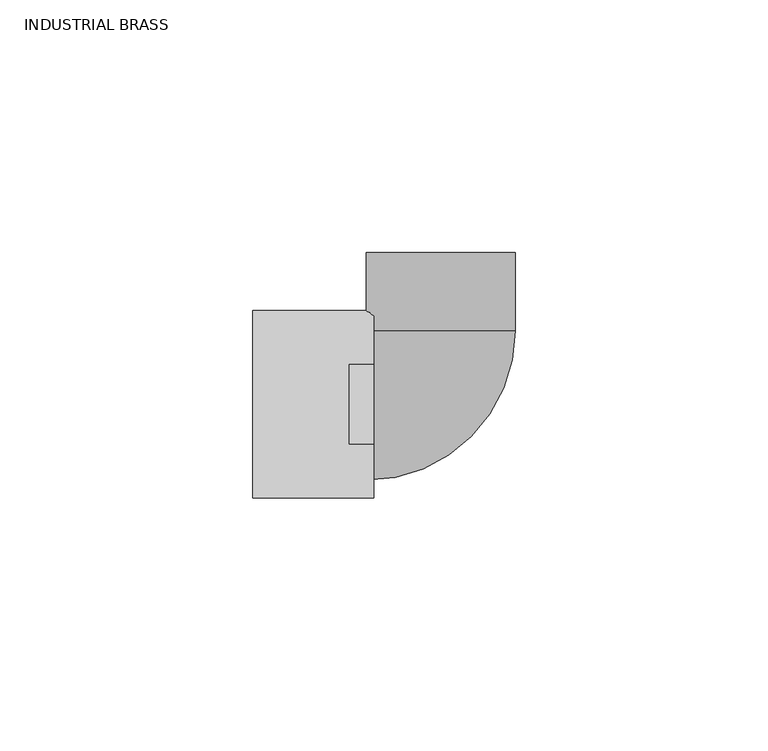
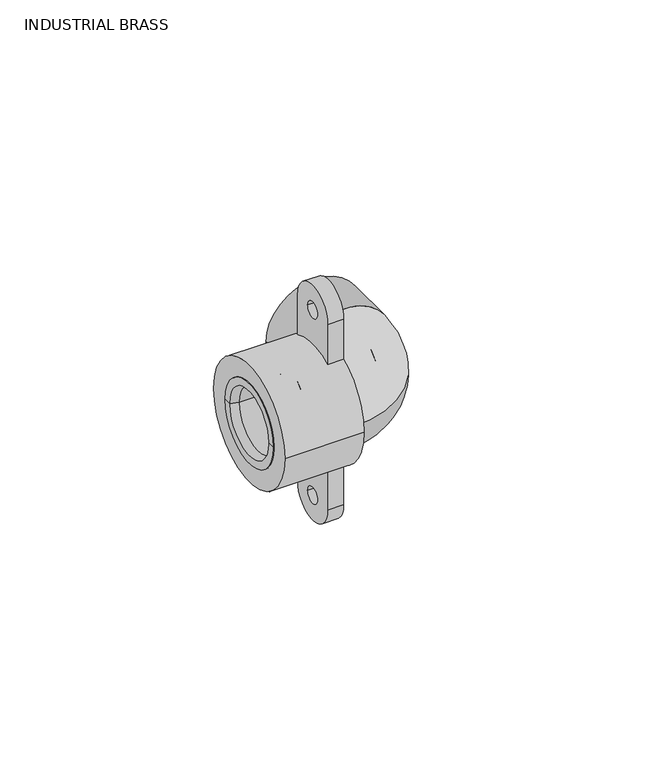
"""IFC4 building model written with IfcOpenShell, lengths in millimetres: valve geometry, Aquatherm - Elbow Transition - Wing Back : INDUSTRIAL BRASS."""

from ifc_helpers import new_model, si_unit, point, frame, origin, origin_2d, place, context, project, spatial, polyline, circle_curve, ellipse_curve, trimmed, segment, composite_curve, outline, extrude, source, transform, mapped, element, save
from ifc_brep_helpers import plane_surface, cylinder_surface, revolved_surface, advanced_brep


def industrial_brass_b8dd7a51(model_context):
    return source(origin(), model_context, "Body", "SolidModel", [
        advanced_brep(
        [(-24.384, -9.525, 0.0), (-24.384, 9.525, 0.0), (-34.5043125, 9.525, 0.0), (-34.5043125, -9.525, 0.0), (-24.384, -10.31875, 0.0), (-24.384, 10.31875, 0.0), (-21.209, -10.31875, 0.0), (-21.209, 10.31875, 0.0), (-21.209, -6.35, 0.0), (-21.209, 6.35, 0.0), (-18.034, -6.35, 0.0), (-18.034, 6.35, 0.0), (-18.034, -12.7, 0.0), (-18.034, 12.7, 0.0), (-37.084, -12.7, 0.0), (-37.084, 12.7, 0.0), (-37.084, -10.31875, 0.0), (-37.084, 10.31875, 0.0)],
        [
            (0, 1, circle_curve(frame((-24.384, 0.0, 0.0), z_axis=(1.0, 0.0, 0.0), x_axis=(0.0, 1.0, 0.0)), 9.525)),
            (1, 2),
            (2, 3, circle_curve(frame((-34.5043125, 0.0, 0.0), z_axis=(-1.0, 0.0, 0.0), x_axis=(0.0, 1.0, 0.0)), 9.525)),
            (3, 0),
            (1, 0, circle_curve(frame((-24.384, 0.0, 0.0), z_axis=(1.0, 0.0, 0.0), x_axis=(0.0, 1.0, 0.0)), 9.525)),
            (3, 2, circle_curve(frame((-34.5043125, 0.0, 0.0), z_axis=(-1.0, 0.0, 0.0), x_axis=(0.0, 1.0, 0.0)), 9.525)),
            (4, 5, circle_curve(frame((-24.384, 0.0, 0.0), z_axis=(1.0, 0.0, 0.0), x_axis=(0.0, 1.0, 0.0)), 10.31875)),
            (5, 1),
            (0, 4),
            (5, 4, circle_curve(frame((-24.384, 0.0, 0.0), z_axis=(1.0, 0.0, 0.0), x_axis=(0.0, 1.0, 0.0)), 10.31875)),
            (6, 7, circle_curve(frame((-21.209, 0.0, 0.0), z_axis=(1.0, 0.0, 0.0), x_axis=(0.0, 1.0, 0.0)), 10.31875)),
            (7, 5),
            (4, 6),
            (7, 6, circle_curve(frame((-21.209, 0.0, 0.0), z_axis=(1.0, 0.0, 0.0), x_axis=(0.0, 1.0, 0.0)), 10.31875)),
            (8, 9, circle_curve(frame((-21.209, 0.0, 0.0), z_axis=(1.0, 0.0, 0.0), x_axis=(0.0, 1.0, 0.0)), 6.35)),
            (9, 7),
            (6, 8),
            (9, 8, circle_curve(frame((-21.209, 0.0, 0.0), z_axis=(1.0, 0.0, 0.0), x_axis=(0.0, 1.0, 0.0)), 6.35)),
            (10, 11, circle_curve(frame((-18.034, 0.0, 0.0), z_axis=(1.0, 0.0, 0.0), x_axis=(0.0, 1.0, 0.0)), 6.35)),
            (11, 9),
            (8, 10),
            (11, 10, circle_curve(frame((-18.034, 0.0, 0.0), z_axis=(1.0, 0.0, 0.0), x_axis=(0.0, 1.0, 0.0)), 6.35)),
            (12, 13, circle_curve(frame((-18.034, 0.0, 0.0), z_axis=(1.0, 0.0, 0.0), x_axis=(0.0, 1.0, 0.0)), 12.7)),
            (13, 11),
            (10, 12),
            (13, 12, circle_curve(frame((-18.034, 0.0, 0.0), z_axis=(1.0, 0.0, 0.0), x_axis=(0.0, 1.0, 0.0)), 12.7)),
            (14, 15, circle_curve(frame((-37.084, 0.0, 0.0), z_axis=(1.0, 0.0, 0.0), x_axis=(0.0, 1.0, 0.0)), 12.7)),
            (15, 13),
            (12, 14),
            (15, 14, circle_curve(frame((-37.084, 0.0, 0.0), z_axis=(1.0, 0.0, 0.0), x_axis=(0.0, 1.0, 0.0)), 12.7)),
            (16, 17, circle_curve(frame((-37.084, 0.0, 0.0), z_axis=(1.0, 0.0, 0.0), x_axis=(0.0, 1.0, 0.0)), 10.31875)),
            (17, 15),
            (14, 16),
            (17, 16, circle_curve(frame((-37.084, 0.0, 0.0), z_axis=(1.0, 0.0, 0.0), x_axis=(0.0, 1.0, 0.0)), 10.31875)),
            (2, 17),
            (16, 3),
        ],
        [
            revolved_surface(polyline([(-34.5043125, 9.525, 0.0), (-24.384, 9.525, 0.0)]), (-38.9172251, 0.0, 0.0), (-1.0, 0.0, 0.0)),
            plane_surface(frame((-24.384, 0.0, 0.0), z_axis=(1.0, 0.0, 0.0), x_axis=(0.0, 1.0, 0.0))),
            revolved_surface(polyline([(-24.384, 10.31875, 0.0), (-21.209, 10.31875, 0.0)]), (-38.9172251, 0.0, 0.0), (-1.0, 0.0, 0.0)),
            plane_surface(frame((-21.209, 0.0, 0.0), z_axis=(-1.0, 0.0, 0.0), x_axis=(0.0, 1.0, 0.0))),
            revolved_surface(polyline([(-21.209, 6.35, 0.0), (-18.034, 6.35, 0.0)]), (-38.9172251, 0.0, 0.0), (-1.0, 0.0, 0.0)),
            plane_surface(frame((-18.034, 0.0, 0.0), z_axis=(1.0, 0.0, 0.0), x_axis=(0.0, 1.0, 0.0))),
            cylinder_surface(frame((-38.9172251, 0.0, 0.0), z_axis=(-1.0, 0.0, 0.0), x_axis=(0.0, 1.0, 0.0)), 12.7),
            plane_surface(frame((-37.084, 0.0, 0.0), z_axis=(-1.0, 0.0, 0.0), x_axis=(0.0, 1.0, 0.0))),
            revolved_surface(polyline([(-37.084, 10.31875, 0.0), (-34.5043125, 9.525, 0.0)]), (-38.9172251, 0.0, 0.0), (-1.0, 0.0, 0.0)),
        ],
        [
            (0, [[1, 2, 3, 4]]),
            (0, [[5, -4, 6, -2]]),
            (1, [[7, 8, -1, 9]]),
            (1, [[10, -9, -5, -8]]),
            (2, [[11, 12, -7, 13]]),
            (2, [[14, -13, -10, -12]]),
            (3, [[15, 16, -11, 17]]),
            (3, [[18, -17, -14, -16]]),
            (4, [[19, 20, -15, 21]]),
            (4, [[22, -21, -18, -20]]),
            (5, [[23, 24, -19, 25]]),
            (5, [[26, -25, -22, -24]]),
            (6, [[27, 28, -23, 29]]),
            (6, [[30, -29, -26, -28]]),
            (7, [[31, 32, -27, 33]]),
            (7, [[34, -33, -30, -32]]),
            (8, [[-3, 35, -31, 36]]),
            (8, [[-6, -36, -34, -35]]),
        ],
    ),
        advanced_brep(
        [(-13.208, 7.874, -16.787075), (-13.208, 18.542, 0.0), (-13.208, 7.874, 16.787075), (-13.208, 7.874, 29.464), (-13.208, -7.874, 29.464), (-13.208, -7.874, 16.787075), (-13.208, -18.542, 0.0), (-13.208, -7.874, -16.787075), (-13.208, -7.874, -29.464), (-13.208, 7.874, -29.464), (-13.208, -12.7, 0.0), (-13.208, 12.7, 0.0), (-13.208, -2.54, 29.464), (-13.208, 2.54, 29.464), (-13.208, -2.54, -29.464), (-13.208, 2.54, -29.464), (-37.084, -18.542, 0.0), (-37.084, 18.542, 0.0), (-37.084, -12.7, 0.0), (-37.084, 12.7, 0.0), (-18.034, 7.874, -16.787075), (-18.034, -7.874, -16.787075), (-18.034, -7.874, 16.787075), (-18.034, 7.874, 16.787075), (-18.034, -7.874, 29.464), (-18.034, 7.874, 29.464), (-18.034, -2.54, 29.464), (-18.034, 2.54, 29.464), (-18.034, 7.874, -29.464), (-18.034, -7.874, -29.464), (-18.034, -2.54, -29.464), (-18.034, 2.54, -29.464)],
        [
            (0, 1, circle_curve(frame((-13.208, 0.0, 0.0), z_axis=(1.0, 0.0, 0.0), x_axis=(0.0, 1.0, 0.0)), 18.542)),
            (1, 2, circle_curve(frame((-13.208, 0.0, 0.0), z_axis=(1.0, 0.0, 0.0), x_axis=(0.0, 1.0, 0.0)), 18.542)),
            (2, 3),
            (3, 4, circle_curve(frame((-13.208, 0.0, 29.464), z_axis=(1.0, 0.0, 0.0), x_axis=(0.0, 1.0, 0.0)), 7.874)),
            (4, 5),
            (5, 6, circle_curve(frame((-13.208, 0.0, 0.0), z_axis=(1.0, 0.0, 0.0), x_axis=(0.0, 1.0, 0.0)), 18.542)),
            (6, 7, circle_curve(frame((-13.208, 0.0, 0.0), z_axis=(1.0, 0.0, 0.0), x_axis=(0.0, 1.0, 0.0)), 18.542)),
            (7, 8),
            (8, 9, circle_curve(frame((-13.208, 0.0, -29.464), z_axis=(1.0, 0.0, 0.0), x_axis=(0.0, 1.0, 0.0)), 7.874)),
            (9, 0),
            (10, 11, circle_curve(frame((-13.208, 0.0, 0.0), z_axis=(-1.0, 0.0, 0.0), x_axis=(0.0, 1.0, 0.0)), 12.7)),
            (11, 10, circle_curve(frame((-13.208, 0.0, 0.0), z_axis=(-1.0, 0.0, 0.0), x_axis=(0.0, 1.0, 0.0)), 12.7)),
            (12, 13, circle_curve(frame((-13.208, 0.0, 29.464), z_axis=(-1.0, 0.0, 0.0), x_axis=(0.0, 1.0, 0.0)), 2.54)),
            (13, 12, circle_curve(frame((-13.208, 0.0, 29.464), z_axis=(-1.0, 0.0, 0.0), x_axis=(0.0, 1.0, 0.0)), 2.54)),
            (14, 15, circle_curve(frame((-13.208, 0.0, -29.464), z_axis=(-1.0, 0.0, 0.0), x_axis=(0.0, 1.0, 0.0)), 2.54)),
            (15, 14, circle_curve(frame((-13.208, 0.0, -29.464), z_axis=(-1.0, 0.0, 0.0), x_axis=(0.0, 1.0, 0.0)), 2.54)),
            (16, 17, circle_curve(frame((-37.084, 0.0, 0.0), z_axis=(-1.0, 0.0, 0.0), x_axis=(0.0, 1.0, 0.0)), 18.542)),
            (17, 16, circle_curve(frame((-37.084, 0.0, 0.0), z_axis=(-1.0, 0.0, 0.0), x_axis=(0.0, 1.0, 0.0)), 18.542)),
            (18, 19, circle_curve(frame((-37.084, 0.0, 0.0), z_axis=(1.0, 0.0, 0.0), x_axis=(0.0, 1.0, 0.0)), 12.7)),
            (19, 18, circle_curve(frame((-37.084, 0.0, 0.0), z_axis=(1.0, 0.0, 0.0), x_axis=(0.0, 1.0, 0.0)), 12.7)),
            (17, 1),
            (0, 20),
            (20, 21, circle_curve(frame((-18.034, 0.0, 0.0), z_axis=(-1.0, 0.0, 0.0), x_axis=(0.0, 1.0, 0.0)), 18.542)),
            (21, 7),
            (6, 16),
            (5, 22),
            (22, 23, circle_curve(frame((-18.034, 0.0, 0.0), z_axis=(-1.0, 0.0, 0.0), x_axis=(0.0, 1.0, 0.0)), 18.542)),
            (23, 2),
            (10, 18),
            (19, 11),
            (24, 25, circle_curve(frame((-18.034, 0.0, 29.464), z_axis=(-1.0, 0.0, 0.0), x_axis=(0.0, 1.0, 0.0)), 7.874)),
            (25, 23),
            (22, 24),
            (26, 27, circle_curve(frame((-18.034, 0.0, 29.464), z_axis=(1.0, 0.0, 0.0), x_axis=(0.0, 1.0, 0.0)), 2.54)),
            (27, 26, circle_curve(frame((-18.034, 0.0, 29.464), z_axis=(1.0, 0.0, 0.0), x_axis=(0.0, 1.0, 0.0)), 2.54)),
            (28, 29, circle_curve(frame((-18.034, 0.0, -29.464), z_axis=(-1.0, 0.0, 0.0), x_axis=(0.0, 1.0, 0.0)), 7.874)),
            (29, 21),
            (20, 28),
            (30, 31, circle_curve(frame((-18.034, 0.0, -29.464), z_axis=(1.0, 0.0, 0.0), x_axis=(0.0, 1.0, 0.0)), 2.54)),
            (31, 30, circle_curve(frame((-18.034, 0.0, -29.464), z_axis=(1.0, 0.0, 0.0), x_axis=(0.0, 1.0, 0.0)), 2.54)),
            (4, 24),
            (25, 3),
            (12, 26),
            (27, 13),
            (8, 29),
            (28, 9),
            (14, 30),
            (31, 15),
        ],
        [
            plane_surface(frame((-13.208, 18.542, 0.0), z_axis=(1.0, 0.0, 0.0), x_axis=(0.0, 0.0, 1.0))),
            plane_surface(frame((-37.084, 18.542, 0.0), z_axis=(-1.0, 0.0, 0.0), x_axis=(0.0, 0.0, -1.0))),
            cylinder_surface(frame((-37.084, 0.0, 0.0), z_axis=(1.0, 0.0, 0.0), x_axis=(0.0, 1.0, 0.0)), 18.542),
            revolved_surface(polyline([(-37.084, 12.7, 0.0), (-13.207999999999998, 12.7, 0.0)]), (-37.084, 0.0, 0.0), (-1.0, 0.0, 0.0)),
            plane_surface(frame((-18.034, -7.874, 14.732), z_axis=(-1.0, 0.0, 0.0), x_axis=(0.0, 0.0, 1.0))),
            plane_surface(frame((-13.208, -7.874, 29.464), z_axis=(0.0, -1.0, 0.0), x_axis=(-1.0, 0.0, 0.0))),
            plane_surface(frame((-13.208, 7.874, 14.732), z_axis=(0.0, 1.0, 0.0), x_axis=(-1.0, 0.0, 0.0))),
            cylinder_surface(frame((-18.034, 0.0, 29.464), z_axis=(1.0, 0.0, 0.0), x_axis=(0.0, 1.0, 0.0)), 7.874),
            revolved_surface(polyline([(-18.034, 2.54, 29.464), (-13.208, 2.54, 29.464)]), (-18.034, 0.0, 29.464), (-1.0, 0.0, 0.0)),
            cylinder_surface(frame((-18.034, 0.0, -29.464), z_axis=(1.0, 0.0, 0.0), x_axis=(0.0, 1.0, 0.0)), 7.874),
            plane_surface(frame((-13.208, 7.874, -29.464), z_axis=(0.0, 1.0, 0.0), x_axis=(-1.0, 0.0, 0.0))),
            plane_surface(frame((-13.208, -7.874, -14.732), z_axis=(0.0, -1.0, 2.87176891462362e-12), x_axis=(-1.0, 0.0, 0.0))),
            revolved_surface(polyline([(-18.034, 2.54, -29.464), (-13.208, 2.54, -29.464)]), (-18.034, 0.0, -29.464), (-1.0, 0.0, 0.0)),
        ],
        [
            (0, [[1, 2, 3, 4, 5, 6, 7, 8, 9, 10], [11, 12], [13, 14], [15, 16]]),
            (1, [[17, 18], [19, 20]]),
            (2, [[-18, 21, -1, 22, 23, 24, -7, 25]]),
            (2, [[-17, -25, -6, 26, 27, 28, -2, -21]]),
            (3, [[-11, 29, -20, 30]]),
            (3, [[-12, -30, -19, -29]]),
            (4, [[31, 32, -27, 33], [34, 35]]),
            (4, [[36, 37, -23, 38], [39, 40]]),
            (5, [[41, -33, -26, -5]]),
            (6, [[42, -3, -28, -32]]),
            (7, [[-4, -42, -31, -41]]),
            (8, [[-13, 43, -35, 44]]),
            (8, [[-14, -44, -34, -43]]),
            (9, [[-9, 45, -36, 46]]),
            (10, [[-46, -38, -22, -10]]),
            (11, [[-45, -8, -24, -37]]),
            (12, [[-15, 47, -40, 48]]),
            (12, [[-16, -48, -39, -47]]),
        ],
    ),
        advanced_brep(
        [(14.732, 14.478, 0.0), (-14.732, 14.478, 0.0), (6.35, 14.478, 0.0), (-6.35, 14.478, 0.0), (-14.732, -14.986, 0.0), (-14.732, -6.604, 0.0), (-14.732, 6.096, 0.0)],
        [
            (0, 1, circle_curve(frame((0.0, 14.478, 0.0), z_axis=(0.0, 1.0, 0.0), x_axis=(-1.0, 0.0, 0.0)), 14.732)),
            (1, 0, circle_curve(frame((0.0, 14.478, 0.0), z_axis=(0.0, 1.0, 0.0), x_axis=(-1.0, 0.0, 0.0)), 14.732)),
            (2, 3, circle_curve(frame((0.0, 14.478, 0.0), z_axis=(0.0, -1.0, 0.0), x_axis=(-1.0, 0.0, 0.0)), 6.35)),
            (3, 2, circle_curve(frame((0.0, 14.478, 0.0), z_axis=(0.0, -1.0, 0.0), x_axis=(-1.0, 0.0, 0.0)), 6.35)),
            (4, 1, circle_curve(frame((-14.732, -0.254, 0.0), z_axis=(-1.0, 0.0, 0.0), x_axis=(0.0, 1.0, 0.0)), 14.732)),
            (1, 4, circle_curve(frame((-14.732, -0.254, 0.0), z_axis=(-1.0, 0.0, 0.0), x_axis=(0.0, 1.0, 0.0)), 14.732)),
            (5, 6, circle_curve(frame((-14.732, -0.254, 0.0), z_axis=(1.0, 0.0, 0.0), x_axis=(0.0, 1.0, 0.0)), 6.35)),
            (6, 5, circle_curve(frame((-14.732, -0.254, 0.0), z_axis=(1.0, 0.0, 0.0), x_axis=(0.0, 1.0, 0.0)), 6.35)),
            (0, 4, circle_curve(frame((-14.732, 14.478, 0.0), z_axis=(0.0, 0.0, -1.0), x_axis=(1.0, 0.0, 0.0)), 29.464)),
            (2, 5, circle_curve(frame((-14.732, 14.478, 0.0), z_axis=(0.0, 0.0, -1.0), x_axis=(1.0, 0.0, 0.0)), 21.082)),
            (6, 3, circle_curve(frame((-14.732, 14.478, 0.0), z_axis=(0.0, 0.0, 1.0), x_axis=(1.0, 0.0, 0.0)), 8.382)),
        ],
        [
            plane_surface(frame((-14.732, 14.478, 41.9103543), z_axis=(0.0, 1.0, 0.0), x_axis=(1.0, 0.0, 0.0))),
            plane_surface(frame((-14.732, 14.478, 41.9103543), z_axis=(-1.0, 0.0, 0.0), x_axis=(0.0, -1.0, 0.0))),
            revolved_surface(trimmed(ellipse_curve(frame((0.0, 14.478, 0.0), z_axis=(0.0, 1.0, 0.0), x_axis=(-1.0, 0.0, 0.0)), 14.732, 14.732), [point((14.732, 14.478, 0.0))], [point((-14.732, 14.478, 0.0))], True, "CARTESIAN"), (-14.732, 14.478, 41.9103543), (0.0, 0.0, -1.0)),
            revolved_surface(trimmed(ellipse_curve(frame((0.0, 14.478, 0.0), z_axis=(0.0, 1.0, 0.0), x_axis=(-1.0, 0.0, 0.0)), 14.732, 14.732), [point((-14.732, 14.478, 0.0))], [point((14.732, 14.478, 0.0))], True, "CARTESIAN"), (-14.732, 14.478, 41.9103543), (0.0, 0.0, -1.0)),
            revolved_surface(trimmed(ellipse_curve(frame((0.0, 14.478, 0.0), z_axis=(0.0, -1.0, 0.0), x_axis=(-1.0, 0.0, 0.0)), 6.35, 6.35), [point((6.35, 14.478, 0.0))], [point((-6.35, 14.478, 0.0))], True, "CARTESIAN"), (-14.732, 14.478, 41.9103543), (0.0, 0.0, -1.0)),
            revolved_surface(trimmed(ellipse_curve(frame((0.0, 14.478, 0.0), z_axis=(0.0, -1.0, 0.0), x_axis=(-1.0, 0.0, 0.0)), 6.35, 6.35), [point((-6.35, 14.478, 0.0))], [point((6.35, 14.478, 0.0))], True, "CARTESIAN"), (-14.732, 14.478, 41.9103543), (0.0, 0.0, -1.0)),
        ],
        [
            (0, [[1, 2], [3, 4]]),
            (1, [[5, 6], [7, 8]]),
            (2, [[-1, 9, -6]]),
            (3, [[-2, -5, -9]]),
            (4, [[-3, 10, -8, 11]]),
            (5, [[-4, -11, -7, -10]]),
        ],
    ),
        extrude(outline(composite_curve([segment(trimmed(circle_curve(origin_2d(), 14.732), [point((0.0, 14.732))], [point((0.0, -14.732))], False, "CARTESIAN"), True, "CONTINUOUS"), segment(trimmed(circle_curve(origin_2d(), 14.732), [point((0.0, -14.732))], [point((0.0, 14.732))], False, "CARTESIAN"), True, "CONTINUOUS")], self_intersect=False), holes=[composite_curve([segment(trimmed(circle_curve(origin_2d(), 10.033), [point((0.0, 10.033))], [point((0.0, -10.033))], True, "CARTESIAN"), True, "CONTINUOUS"), segment(trimmed(circle_curve(origin_2d(), 10.033), [point((0.0, -10.033))], [point((0.0, 10.033))], True, "CARTESIAN"), True, "CONTINUOUS")], self_intersect=False)]), frame((0.0, 14.478, 0.0), z_axis=(0.0, 1.0, 0.0), x_axis=(0.0, 0.0, 1.0)), (0.0, 0.0, 1.0), 15.494),
    ])


if __name__ == "__main__":
    model = new_model("IFC4")
    model_context = context("Model", 3, world=origin())
    ifc_project = project(units=[si_unit("LENGTHUNIT", "METRE", prefix="MILLI")], contexts=[model_context])
    site = spatial("IfcSite", under=ifc_project)
    building = spatial("IfcBuilding", under=site)
    placement = place(None, origin())
    industrial_brass_shape = industrial_brass_b8dd7a51(model_context)
    element("IfcValve", 1, ObjectType="Aquatherm - Elbow Transition - Wing Back : INDUSTRIAL BRASS", at=placement, inside=building, context=model_context, shape_type="MappedRepresentation", body=[
        mapped(industrial_brass_shape, transform((0.0, 0.0, 0.0), x_axis=(1.0, 0.0, 0.0), y_axis=(0.0, 1.0, 0.0), z_axis=(0.0, 0.0, 1.0))),
    ])
    save(model, "model.ifc")
